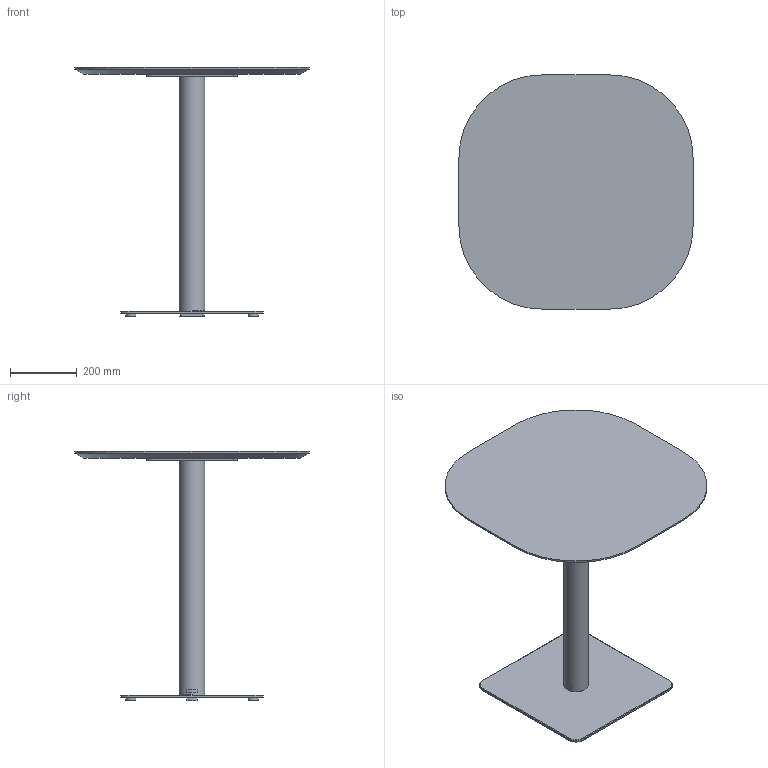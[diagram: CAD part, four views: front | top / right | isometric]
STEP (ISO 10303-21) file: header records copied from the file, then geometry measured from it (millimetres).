
FILE_DESCRIPTION( ('This file contains a STEP AP42 implementation' ,'as created by ZW3D STEP Interface translator.') ,'2;1' );
FILE_NAME( 'Henri - B_Carré - F2 - M5 - 700 x 700 x 750.stp' ,'24 912.165825', (''), ('ZWCAD Software Co.'), 'Version 1.0', 'ZW3D to STEP translator', '' );
FILE_SCHEMA(('AUTOMOTIVE_DESIGN { 1 0 10303 214 1 1 1 1 }'));
Length unit declared in the file: millimetre
Products named in the file (14): 0; PIED BISTROT PARAMETRIQUE_; COLONNE ACIER Ø76 V.02_; TUB-D076-02_; PLA-R76B-01_; CROIX ACIER 370 V.02_; CRX-X370-02_; SOCLE ACIER L 425x425 V.02_; SCL-R425-02_; PLA-R30A-01_; PLA-R30A-01; WUERTH 0276063020 Euro-screw 6.3x2 Verzinkt_; PLATEAU BISTROT PARAMETRIQUE_; insert_m6_13_
Assembly tree (22 placements, depth 3):
  0
  PIED BISTROT PARAMETRIQUE_
    COLONNE ACIER Ø76 V.02_
      TUB-D076-02_
      PLA-R76B-01_  x2
    CROIX ACIER 370 V.02_
      CRX-X370-02_
    SOCLE ACIER L 425x425 V.02_
      SCL-R425-02_
      PLA-R30A-01_
      PLA-R30A-01  x3
    WUERTH 0276063020 Euro-screw 6.3x2 Verzinkt_
    PLATEAU BISTROT PARAMETRIQUE_
      insert_m6_13_  x8
Bounding box: 700 x 700 x 744 mm (x, y, z)
Volume: 10653431.8 mm3; surface area: 1787038 mm2
Topology: 19 solids, 19 shells, 529 faces, 1294 edges, 814 vertices
Faces by surface type: plane 258, bspline 121, cylinder 98, cone 51, torus 1
Full cylindrical faces by diameter (mm): 4.88 x1, 6 x8, 6.3 x1, 8 x45, 12 x2, 14 x2, 30 x4, 72 x1, 76 x1
Entity records: 12106 total; most frequent: CARTESIAN_POINT 3364, ORIENTED_EDGE 1592, DIRECTION 1483, EDGE_CURVE 796, VERTEX_POINT 510, VECTOR 501, LINE 501, AXIS2_PLACEMENT_3D 491
